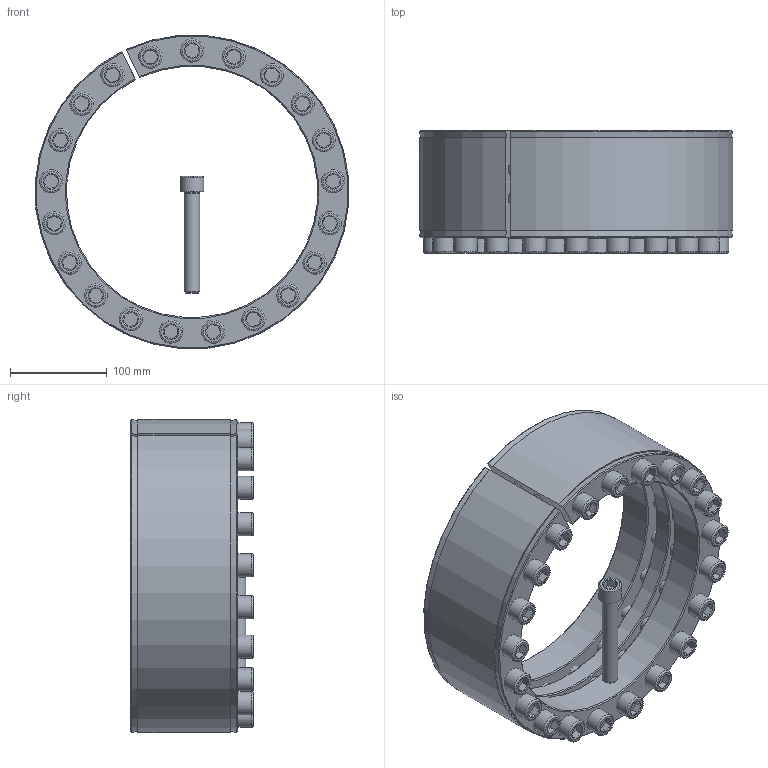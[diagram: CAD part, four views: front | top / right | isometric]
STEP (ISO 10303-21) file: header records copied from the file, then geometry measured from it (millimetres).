
FILE_DESCRIPTION( ( 'Unknown' ), '1' );
FILE_NAME( 'C:/Users/Frank/Eigene Daten/CAD/Solid Edge/KBK Karpstein/KBS Layout Baureihen/KBS 18/KBS - 260 x 325.stp', 'Unknown', ( 'Unknown' ), ( 'Unknown' ), 'XStep 1.0', 'Unknown', ' ' );
FILE_SCHEMA( ( 'automotive_design' ) );
Length unit declared in the file: millimetre
Products named in the file (3): Assem1; ISO EN DIN 4762 M16x105; KBS 18 - 260 x 325
Bounding box: 324.14 x 127 x 323.97 mm (x, y, z)
Volume: 5400008.8 mm3; surface area: 1022883.5 mm2
Topology: 24 solids, 24 shells, 770 faces, 1736 edges, 1018 vertices
Faces by surface type: plane 326, cylinder 222, cone 178, torus 44
Full cylindrical faces by diameter (mm): 13 x22, 13.835 x42, 16 x44, 17.5 x84, 24 x22
Entity records: 5520 total; most frequent: CARTESIAN_POINT 1482, DIRECTION 854, ORIENTED_EDGE 676, AXIS2_PLACEMENT_3D 409, EDGE_CURVE 338, EDGE_LOOP 293, CIRCLE 251, VERTEX_POINT 239
